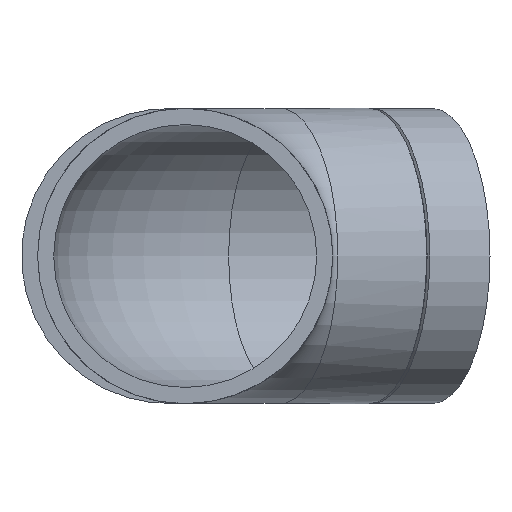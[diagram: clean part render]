
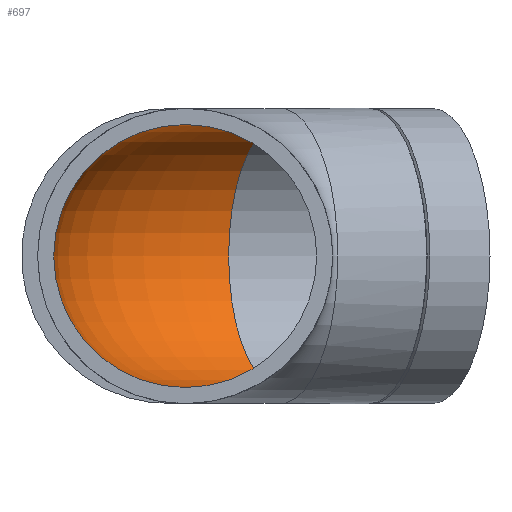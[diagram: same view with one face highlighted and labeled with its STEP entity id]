
A CAD part, front view. The second image highlights one B-rep face of the part: STEP entity #697.
In plain terms, the highlighted toroidal (fillet/blend) face has major radius 58 mm and minor radius 49 mm.
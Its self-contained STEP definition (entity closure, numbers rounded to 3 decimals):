
#13=TOROIDAL_SURFACE($,#769,58.,49.);
#128=FACE_BOUND($,#224,.T.);
#170=FACE_OUTER_BOUND($,#223,.T.);
#223=EDGE_LOOP($,(#606));
#224=EDGE_LOOP($,(#607));
#263=CIRCLE($,#770,49.);
#264=CIRCLE($,#771,49.);
#334=VERTEX_POINT($,#1809);
#335=VERTEX_POINT($,#1811);
#427=EDGE_CURVE($,#334,#334,#263,.T.);
#428=EDGE_CURVE($,#335,#335,#264,.T.);
#606=ORIENTED_EDGE($,*,*,#427,.F.);
#607=ORIENTED_EDGE($,*,*,#428,.T.);
#697=ADVANCED_FACE($,(#170,#128),#13,.F.);
#769=AXIS2_PLACEMENT_3D($,#1808,#912,#913);
#770=AXIS2_PLACEMENT_3D($,#1810,#914,#915);
#771=AXIS2_PLACEMENT_3D($,#1812,#916,#917);
#912=DIRECTION('center_axis',(0.,0.,-1.));
#913=DIRECTION('ref_axis',(-1.,0.,0.));
#914=DIRECTION('center_axis',(-0.921,-0.391,0.));
#915=DIRECTION('ref_axis',(0.391,-0.921,0.));
#916=DIRECTION('center_axis',(0.,-1.,0.));
#917=DIRECTION('ref_axis',(1.,0.,0.));
#1808=CARTESIAN_POINT('Origin',(58.,41.611,0.));
#1809=CARTESIAN_POINT('',(16.192,140.105,0.));
#1810=CARTESIAN_POINT('Origin',(35.338,95.,0.));
#1811=CARTESIAN_POINT('',(-49.,41.611,0.));
#1812=CARTESIAN_POINT('Origin',(0.,41.611,0.));
